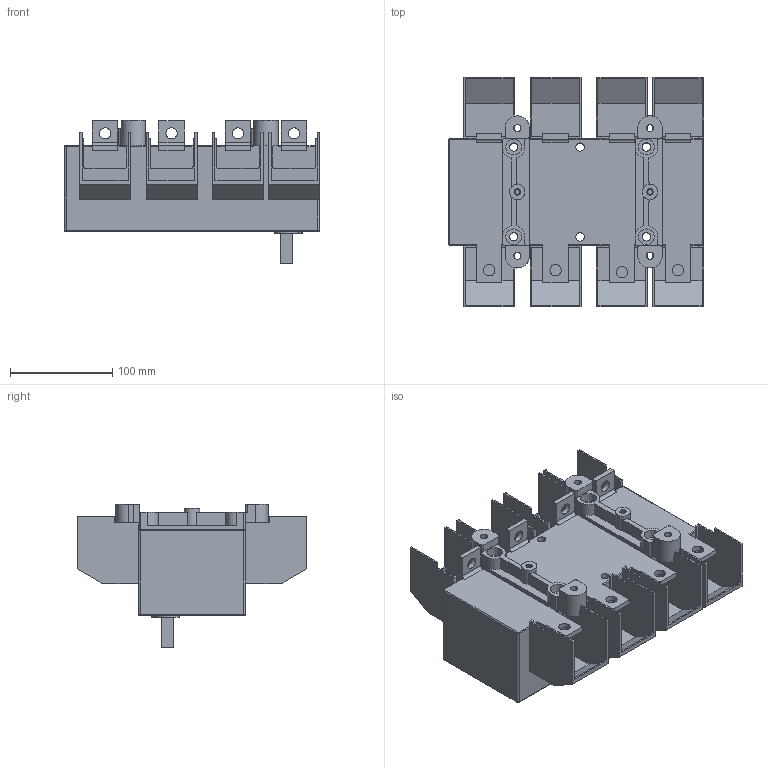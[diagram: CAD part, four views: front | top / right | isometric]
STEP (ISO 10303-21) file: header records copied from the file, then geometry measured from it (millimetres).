
FILE_DESCRIPTION(/* description */ (''),/* implementation_level */ '2;1');
FILE_NAME(/* name */ 'RA630 P3 NB z oslona zaciskow.stp',/* time_stamp */ '2021-08-19T08:33:53+02:00',/* author */ (''),/* organization */ (''),/* preprocessor_version */ 'ST-DEVELOPER v18.1',/* originating_system */ 'SIEMENS PLM Software NX 1965',/* authorisation */ '');
FILE_SCHEMA (('AUTOMOTIVE_DESIGN { 1 0 10303 214 3 1 1 1 }'));
Length unit declared in the file: millimetre
Products named in the file (1): RA630 P3 NB z oslona zaciskow_stp
Bounding box: 250 x 225 x 141 mm (x, y, z)
Volume: 2434897.9 mm3; surface area: 334535.2 mm2
Topology: 1 solids, 1 shells, 446 faces, 1308 edges, 858 vertices
Faces by surface type: plane 324, cylinder 114, torus 5, bspline 3
Full cylindrical faces by diameter (mm): 4.8 x2, 6.2 x2, 7 x4, 8.2 x6, 11 x8, 14 x4, 15 x2, 15.5 x4
Entity records: 14657 total; most frequent: CARTESIAN_POINT 2632, ORIENTED_EDGE 2536, DIRECTION 2428, EDGE_CURVE 1268, LINE 992, VECTOR 992, VERTEX_POINT 850, AXIS2_PLACEMENT_3D 718
